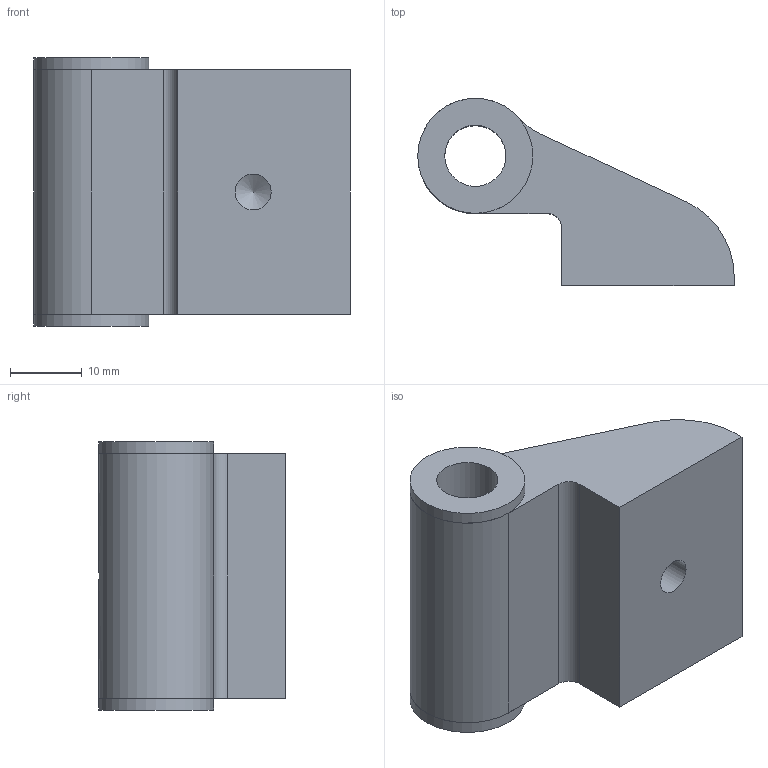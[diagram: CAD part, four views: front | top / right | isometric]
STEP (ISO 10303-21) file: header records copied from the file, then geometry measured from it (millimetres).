
FILE_DESCRIPTION (( 'STEP AP214' ), '1' );
FILE_NAME ('N50115.step', '2024-12-03T16:27:25', ( '' ), ( '' ), 'SwSTEP 2.0', 'SolidWorks 2023', '' );
FILE_SCHEMA (( 'AUTOMOTIVE_DESIGN' ));
Length unit declared in the file: millimetre
Products named in the file (1): N50115
Bounding box: 44 x 26 x 37.3 mm (x, y, z)
Volume: 18249 mm3; surface area: 9021.8 mm2
Topology: 3 solids, 3 shells, 27 faces, 56 edges, 37 vertices
Faces by surface type: plane 13, cylinder 12, bspline 1, cone 1
Full cylindrical faces by diameter (mm): 5 x1, 8.5 x2, 10.25 x3, 16 x2
Entity records: 898 total; most frequent: CARTESIAN_POINT 290, DIRECTION 121, ORIENTED_EDGE 90, AXIS2_PLACEMENT_3D 51, EDGE_LOOP 47, EDGE_CURVE 45, FACE_OUTER_BOUND 36, VERTEX_POINT 36
